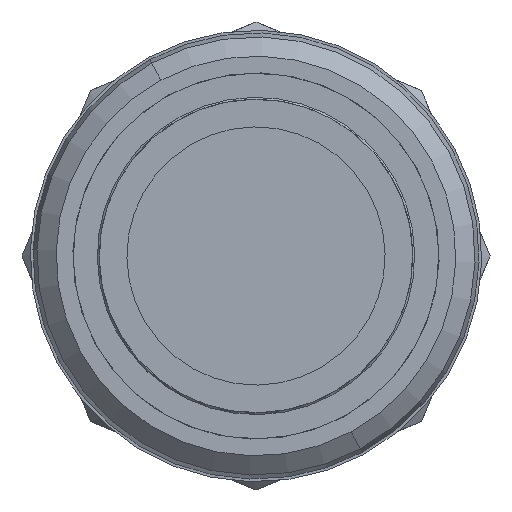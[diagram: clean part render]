
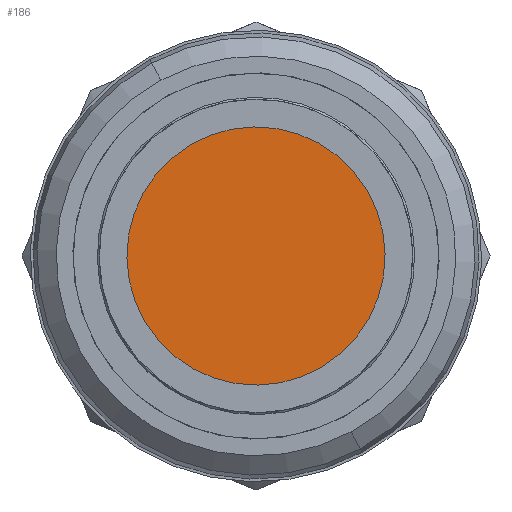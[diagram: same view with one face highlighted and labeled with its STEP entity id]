
A CAD part, left-side view. The second image highlights one B-rep face of the part: STEP entity #186.
In plain terms, the highlighted planar face has unit normal (-1, 0, 0).
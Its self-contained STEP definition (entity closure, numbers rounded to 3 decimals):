
#186=ADVANCED_FACE('',(#376),#377,.T.);
#376=FACE_OUTER_BOUND('',#810,.T.);
#377=PLANE('',#811);
#810=EDGE_LOOP('',(#1297,#1298,#1299));
#811=AXIS2_PLACEMENT_3D('',#1300,#1301,#1302);
#1297=ORIENTED_EDGE('',*,*,#1545,.T.);
#1298=ORIENTED_EDGE('',*,*,#1346,.T.);
#1299=ORIENTED_EDGE('',*,*,#1546,.T.);
#1300=CARTESIAN_POINT('',(-18.4,0.,0.));
#1301=DIRECTION('',(-1.0,0.,0.));
#1302=DIRECTION('',(0.,0.0,1.0));
#1346=EDGE_CURVE('',#1556,#1560,#1562,.T.);
#1545=EDGE_CURVE('',#1863,#1556,#1864,.T.);
#1546=EDGE_CURVE('',#1560,#1863,#1865,.T.);
#1556=VERTEX_POINT('',#1876);
#1560=VERTEX_POINT('',#1881);
#1562=CIRCLE('',#1884,22.25);
#1863=VERTEX_POINT('',#2633);
#1864=CIRCLE('',#2634,22.25);
#1865=CIRCLE('',#2635,22.25);
#1876=CARTESIAN_POINT('',(-18.4,-10.75,19.481));
#1881=CARTESIAN_POINT('',(-18.4,10.75,-19.481));
#1884=AXIS2_PLACEMENT_3D('',#2649,#2650,#2651);
#2633=CARTESIAN_POINT('',(-18.4,-19.481,-10.75));
#2634=AXIS2_PLACEMENT_3D('',#2918,#2919,#2920);
#2635=AXIS2_PLACEMENT_3D('',#2921,#2922,#2923);
#2649=CARTESIAN_POINT('',(-18.4,0.,0.));
#2650=DIRECTION('',(-1.0,0.,0.));
#2651=DIRECTION('',(0.,0.876,0.483));
#2918=CARTESIAN_POINT('',(-18.4,0.,0.));
#2919=DIRECTION('',(-1.0,0.,0.));
#2920=DIRECTION('',(0.,0.876,0.483));
#2921=CARTESIAN_POINT('',(-18.4,0.,0.));
#2922=DIRECTION('',(-1.0,0.,0.));
#2923=DIRECTION('',(0.,0.876,0.483));
